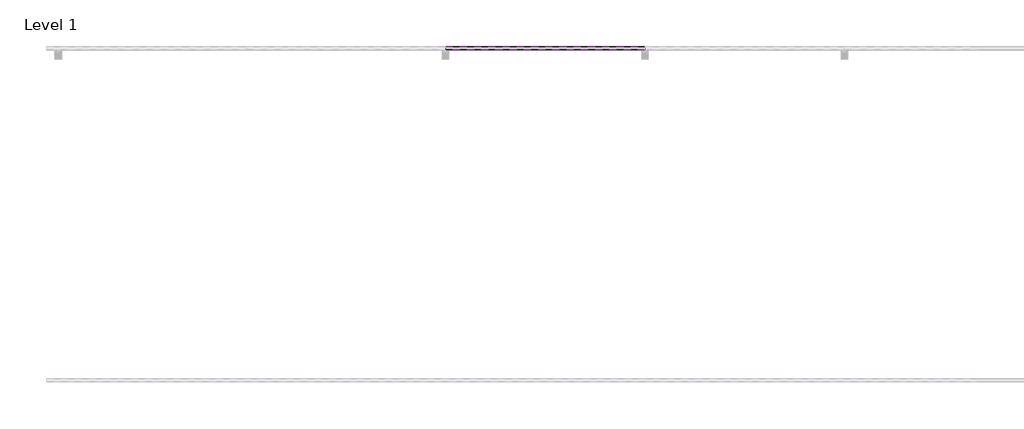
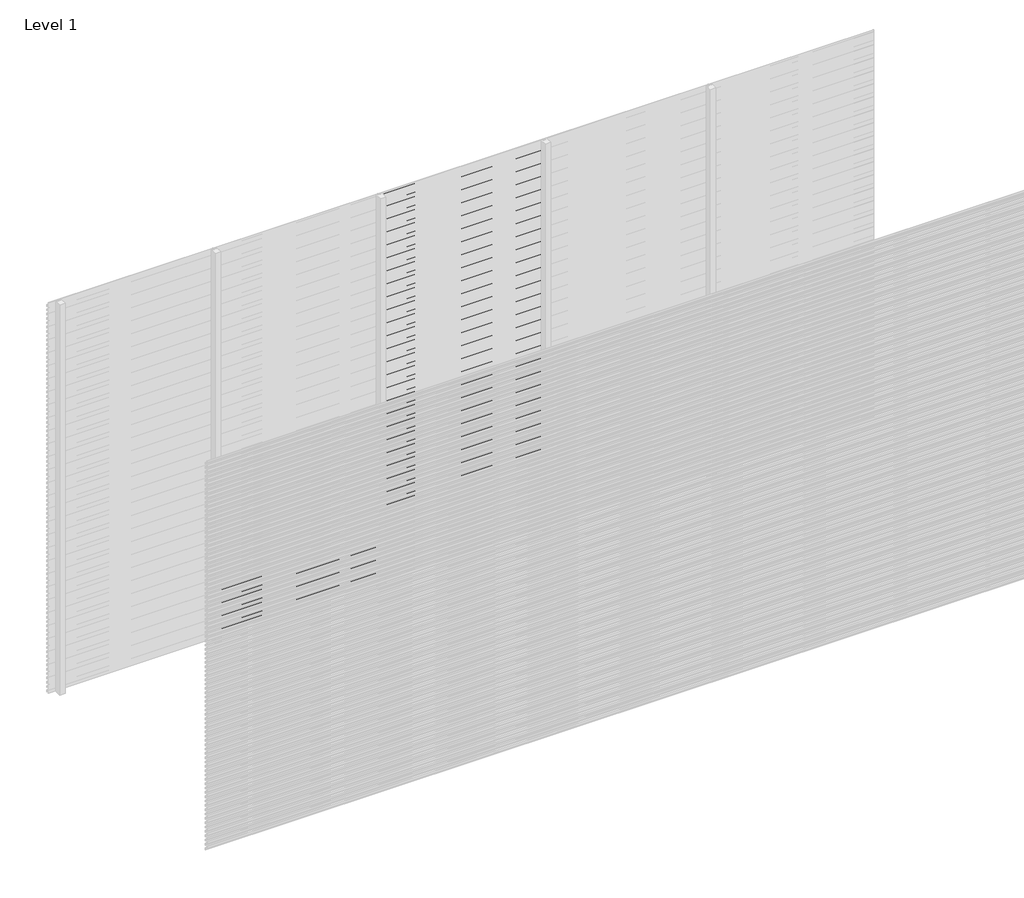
# One storey, part 52 of 507: 84 proxies.
"""IFC4 building model written with IfcOpenShell, lengths in millimetres."""

from ifc_helpers import new_model, si_unit, frame, origin, place, context, project, spatial, polyline, outline, extrude, element, save

model = new_model("IFC4")

# Units and contexts
model_context = context("Model", 3, world=origin())
ifc_project = project(units=[si_unit("LENGTHUNIT", "METRE", prefix="MILLI")], contexts=[model_context])

# Site, building, storey
site = spatial("IfcSite", under=ifc_project)
building = spatial("IfcBuilding", under=site)
storey = spatial("IfcBuildingStorey", under=building, Name="Level 1", Elevation=0.0)

# Proxies
placement = place(None, origin())
element("IfcBuildingElementProxy", 1, Name="Wall Sweeps", at=placement, inside=storey, context=model_context, shape_type="SweptSolid", body=[
    extrude(outline(polyline([(36503.4540136, 342.3), (36503.4540136, 328.8), (36502.2040136, 329.5216933), (36502.2040136, 341.5782281), (36483.0540136, 352.6345698), (36483.0540136, 366.3), (36484.3040136, 366.3), (36484.3040136, 353.3562577), (36503.4540136, 342.3)])), frame((46166.6208099, 0.0, 0.0), z_axis=(1.0, 0.0, 0.0), x_axis=(0.0, 1.0, 0.0)), (0.0, 0.0, 1.0), 1199.9999999),
])
element("IfcBuildingElementProxy", 2, Name="Wall Sweeps", at=placement, inside=storey, context=model_context, shape_type="SweptSolid", body=[
    extrude(outline(polyline([(36503.4540136, 309.0), (36503.4540136, 295.5), (36502.2040136, 296.2216933), (36502.2040136, 308.2782281), (36483.0540136, 319.3345698), (36483.0540136, 333.0), (36484.3040136, 333.0), (36484.3040136, 320.0562577), (36503.4540136, 309.0)])), frame((46166.6208099, 0.0, 0.0), z_axis=(1.0, 0.0, 0.0), x_axis=(0.0, 1.0, 0.0)), (0.0, 0.0, 1.0), 1199.9999999),
])
element("IfcBuildingElementProxy", 3, Name="Wall Sweeps", at=placement, inside=storey, context=model_context, shape_type="SweptSolid", body=[
    extrude(outline(polyline([(36503.4540136, 275.7), (36503.4540136, 262.2), (36502.2040136, 262.9216933), (36502.2040136, 274.9782281), (36483.0540136, 286.0345698), (36483.0540136, 299.7), (36484.3040136, 299.7), (36484.3040136, 286.7562577), (36503.4540136, 275.7)])), frame((46166.6208099, 0.0, 0.0), z_axis=(1.0, 0.0, 0.0), x_axis=(0.0, 1.0, 0.0)), (0.0, 0.0, 1.0), 1199.9999999),
])
element("IfcBuildingElementProxy", 4, Name="Wall Sweeps", at=placement, inside=storey, context=model_context, shape_type="SweptSolid", body=[
    extrude(outline(polyline([(36503.4540136, 242.4), (36503.4540136, 228.9), (36502.2040136, 229.6216933), (36502.2040136, 241.6782281), (36483.0540136, 252.7345698), (36483.0540136, 266.4), (36484.3040136, 266.4), (36484.3040136, 253.4562577), (36503.4540136, 242.4)])), frame((46166.6208099, 0.0, 0.0), z_axis=(1.0, 0.0, 0.0), x_axis=(0.0, 1.0, 0.0)), (0.0, 0.0, 1.0), 1199.9999999),
])
element("IfcBuildingElementProxy", 5, Name="Wall Sweeps", at=placement, inside=storey, context=model_context, shape_type="SweptSolid", body=[
    extrude(outline(polyline([(36503.4540136, 209.1), (36503.4540136, 195.6), (36502.2040136, 196.3216933), (36502.2040136, 208.3782281), (36483.0540136, 219.4345698), (36483.0540136, 233.1), (36484.3040136, 233.1), (36484.3040136, 220.1562577), (36503.4540136, 209.1)])), frame((46166.6208099, 0.0, 0.0), z_axis=(1.0, 0.0, 0.0), x_axis=(0.0, 1.0, 0.0)), (0.0, 0.0, 1.0), 1199.9999999),
])
element("IfcBuildingElementProxy", 6, Name="Wall Sweeps", at=placement, inside=storey, context=model_context, shape_type="SweptSolid", body=[
    extrude(outline(polyline([(36503.4540136, 175.8), (36503.4540136, 162.3), (36502.2040136, 163.0216933), (36502.2040136, 175.0782281), (36483.0540136, 186.1345698), (36483.0540136, 199.8), (36484.3040136, 199.8), (36484.3040136, 186.8562577), (36503.4540136, 175.8)])), frame((46166.6208099, 0.0, 0.0), z_axis=(1.0, 0.0, 0.0), x_axis=(0.0, 1.0, 0.0)), (0.0, 0.0, 1.0), 1199.9999999),
])
element("IfcBuildingElementProxy", 7, Name="Wall Sweeps", at=placement, inside=storey, context=model_context, shape_type="SweptSolid", body=[
    extrude(outline(polyline([(36503.4540136, 142.5), (36503.4540136, 129.0), (36502.2040136, 129.7216933), (36502.2040136, 141.7782281), (36483.0540136, 152.8345698), (36483.0540136, 166.5), (36484.3040136, 166.5), (36484.3040136, 153.5562577), (36503.4540136, 142.5)])), frame((46166.6208099, 0.0, 0.0), z_axis=(1.0, 0.0, 0.0), x_axis=(0.0, 1.0, 0.0)), (0.0, 0.0, 1.0), 1199.9999999),
])
element("IfcBuildingElementProxy", 8, Name="Wall Sweeps", at=placement, inside=storey, context=model_context, shape_type="SweptSolid", body=[
    extrude(outline(polyline([(36503.4540136, 109.2), (36503.4540136, 95.7), (36502.2040136, 96.4216933), (36502.2040136, 108.4782281), (36483.0540136, 119.5345698), (36483.0540136, 133.2), (36484.3040136, 133.2), (36484.3040136, 120.2562577), (36503.4540136, 109.2)])), frame((46166.6208099, 0.0, 0.0), z_axis=(1.0, 0.0, 0.0), x_axis=(0.0, 1.0, 0.0)), (0.0, 0.0, 1.0), 1199.9999999),
])
element("IfcBuildingElementProxy", 9, Name="Wall Sweeps", at=placement, inside=storey, context=model_context, shape_type="SweptSolid", body=[
    extrude(outline(polyline([(36503.4540136, 75.9), (36503.4540136, 62.4), (36502.2040136, 63.1216933), (36502.2040136, 75.1782281), (36483.0540136, 86.2345698), (36483.0540136, 99.9), (36484.3040136, 99.9), (36484.3040136, 86.9562577), (36503.4540136, 75.9)])), frame((46166.6208099, 0.0, 0.0), z_axis=(1.0, 0.0, 0.0), x_axis=(0.0, 1.0, 0.0)), (0.0, 0.0, 1.0), 1199.9999999),
])
element("IfcBuildingElementProxy", 10, Name="Wall Sweeps", at=placement, inside=storey, context=model_context, shape_type="SweptSolid", body=[
    extrude(outline(polyline([(36503.4540136, 42.6), (36503.4540136, 29.1), (36502.2040136, 29.8216933), (36502.2040136, 41.8782281), (36483.0540136, 52.9345698), (36483.0540136, 66.6), (36484.3040136, 66.6), (36484.3040136, 53.6562577), (36503.4540136, 42.6)])), frame((46166.6208099, 0.0, 0.0), z_axis=(1.0, 0.0, 0.0), x_axis=(0.0, 1.0, 0.0)), (0.0, 0.0, 1.0), 1199.9999999),
])
element("IfcBuildingElementProxy", 11, Name="Wall Sweeps", at=placement, inside=storey, context=model_context, shape_type="SweptSolid", body=[
    extrude(outline(polyline([(36503.4540136, 9.3), (36503.4540136, -4.2), (36502.2040136, -3.4783067), (36502.2040136, 8.5782281), (36483.0540136, 19.6345698), (36483.0540136, 33.3), (36484.3040136, 33.3), (36484.3040136, 20.3562577), (36503.4540136, 9.3)])), frame((46166.6208099, 0.0, 0.0), z_axis=(1.0, 0.0, 0.0), x_axis=(0.0, 1.0, 0.0)), (0.0, 0.0, 1.0), 1199.9999999),
])
element("IfcBuildingElementProxy", 12, Name="Wall Sweeps", at=placement, inside=storey, context=model_context, shape_type="SweptSolid", body=[
    extrude(outline(polyline([(36503.4540136, 2973.0), (36503.4540136, 2959.5), (36502.2040136, 2960.2216933), (36502.2040136, 2972.2782281), (36483.0540136, 2983.3345698), (36483.0540136, 2997.0), (36484.3040136, 2997.0), (36484.3040136, 2984.0562577), (36503.4540136, 2973.0)])), frame((47366.6208097, 0.0, 0.0), z_axis=(1.0, 0.0, 0.0), x_axis=(0.0, 1.0, 0.0)), (0.0, 0.0, 1.0), 1199.9999999),
])
element("IfcBuildingElementProxy", 13, Name="Wall Sweeps", at=placement, inside=storey, context=model_context, shape_type="SweptSolid", body=[
    extrude(outline(polyline([(36503.4540136, 2939.7), (36503.4540136, 2926.2), (36502.2040136, 2926.9216933), (36502.2040136, 2938.9782281), (36483.0540136, 2950.0345698), (36483.0540136, 2963.7), (36484.3040136, 2963.7), (36484.3040136, 2950.7562577), (36503.4540136, 2939.7)])), frame((47366.6208097, 0.0, 0.0), z_axis=(1.0, 0.0, 0.0), x_axis=(0.0, 1.0, 0.0)), (0.0, 0.0, 1.0), 1199.9999999),
])
element("IfcBuildingElementProxy", 14, Name="Wall Sweeps", at=placement, inside=storey, context=model_context, shape_type="SweptSolid", body=[
    extrude(outline(polyline([(36503.4540136, 2906.4), (36503.4540136, 2892.9), (36502.2040136, 2893.6216933), (36502.2040136, 2905.6782281), (36483.0540136, 2916.7345698), (36483.0540136, 2930.4), (36484.3040136, 2930.4), (36484.3040136, 2917.4562577), (36503.4540136, 2906.4)])), frame((47366.6208097, 0.0, 0.0), z_axis=(1.0, 0.0, 0.0), x_axis=(0.0, 1.0, 0.0)), (0.0, 0.0, 1.0), 1199.9999999),
])
element("IfcBuildingElementProxy", 15, Name="Wall Sweeps", at=placement, inside=storey, context=model_context, shape_type="SweptSolid", body=[
    extrude(outline(polyline([(36503.4540136, 2873.1), (36503.4540136, 2859.6), (36502.2040136, 2860.3216933), (36502.2040136, 2872.3782281), (36483.0540136, 2883.4345698), (36483.0540136, 2897.1), (36484.3040136, 2897.1), (36484.3040136, 2884.1562577), (36503.4540136, 2873.1)])), frame((47366.6208097, 0.0, 0.0), z_axis=(1.0, 0.0, 0.0), x_axis=(0.0, 1.0, 0.0)), (0.0, 0.0, 1.0), 1199.9999999),
])
element("IfcBuildingElementProxy", 16, Name="Wall Sweeps", at=placement, inside=storey, context=model_context, shape_type="SweptSolid", body=[
    extrude(outline(polyline([(36503.4540136, 2839.8), (36503.4540136, 2826.3), (36502.2040136, 2827.0216933), (36502.2040136, 2839.0782281), (36483.0540136, 2850.1345698), (36483.0540136, 2863.8), (36484.3040136, 2863.8), (36484.3040136, 2850.8562577), (36503.4540136, 2839.8)])), frame((47366.6208097, 0.0, 0.0), z_axis=(1.0, 0.0, 0.0), x_axis=(0.0, 1.0, 0.0)), (0.0, 0.0, 1.0), 1199.9999999),
])
element("IfcBuildingElementProxy", 17, Name="Wall Sweeps", at=placement, inside=storey, context=model_context, shape_type="SweptSolid", body=[
    extrude(outline(polyline([(36503.4540136, 2806.5), (36503.4540136, 2793.0), (36502.2040136, 2793.7216933), (36502.2040136, 2805.7782281), (36483.0540136, 2816.8345698), (36483.0540136, 2830.5), (36484.3040136, 2830.5), (36484.3040136, 2817.5562577), (36503.4540136, 2806.5)])), frame((47366.6208097, 0.0, 0.0), z_axis=(1.0, 0.0, 0.0), x_axis=(0.0, 1.0, 0.0)), (0.0, 0.0, 1.0), 1199.9999999),
])
element("IfcBuildingElementProxy", 18, Name="Wall Sweeps", at=placement, inside=storey, context=model_context, shape_type="SweptSolid", body=[
    extrude(outline(polyline([(36503.4540136, 2773.2), (36503.4540136, 2759.7), (36502.2040136, 2760.4216933), (36502.2040136, 2772.4782281), (36483.0540136, 2783.5345698), (36483.0540136, 2797.2), (36484.3040136, 2797.2), (36484.3040136, 2784.2562577), (36503.4540136, 2773.2)])), frame((47366.6208097, 0.0, 0.0), z_axis=(1.0, 0.0, 0.0), x_axis=(0.0, 1.0, 0.0)), (0.0, 0.0, 1.0), 1199.9999999),
])
element("IfcBuildingElementProxy", 19, Name="Wall Sweeps", at=placement, inside=storey, context=model_context, shape_type="SweptSolid", body=[
    extrude(outline(polyline([(36503.4540136, 2739.9), (36503.4540136, 2726.4), (36502.2040136, 2727.1216933), (36502.2040136, 2739.1782281), (36483.0540136, 2750.2345698), (36483.0540136, 2763.9), (36484.3040136, 2763.9), (36484.3040136, 2750.9562577), (36503.4540136, 2739.9)])), frame((47366.6208097, 0.0, 0.0), z_axis=(1.0, 0.0, 0.0), x_axis=(0.0, 1.0, 0.0)), (0.0, 0.0, 1.0), 1199.9999999),
])
element("IfcBuildingElementProxy", 20, Name="Wall Sweeps", at=placement, inside=storey, context=model_context, shape_type="SweptSolid", body=[
    extrude(outline(polyline([(36503.4540136, 2706.6), (36503.4540136, 2693.1), (36502.2040136, 2693.8216933), (36502.2040136, 2705.8782281), (36483.0540136, 2716.9345698), (36483.0540136, 2730.6), (36484.3040136, 2730.6), (36484.3040136, 2717.6562577), (36503.4540136, 2706.6)])), frame((47366.6208097, 0.0, 0.0), z_axis=(1.0, 0.0, 0.0), x_axis=(0.0, 1.0, 0.0)), (0.0, 0.0, 1.0), 1199.9999999),
])
element("IfcBuildingElementProxy", 21, Name="Wall Sweeps", at=placement, inside=storey, context=model_context, shape_type="SweptSolid", body=[
    extrude(outline(polyline([(36503.4540136, 2673.3), (36503.4540136, 2659.8), (36502.2040136, 2660.5216933), (36502.2040136, 2672.5782281), (36483.0540136, 2683.6345698), (36483.0540136, 2697.3), (36484.3040136, 2697.3), (36484.3040136, 2684.3562577), (36503.4540136, 2673.3)])), frame((47366.6208097, 0.0, 0.0), z_axis=(1.0, 0.0, 0.0), x_axis=(0.0, 1.0, 0.0)), (0.0, 0.0, 1.0), 1199.9999999),
])
element("IfcBuildingElementProxy", 22, Name="Wall Sweeps", at=placement, inside=storey, context=model_context, shape_type="SweptSolid", body=[
    extrude(outline(polyline([(36503.4540136, 2640.0), (36503.4540136, 2626.5), (36502.2040136, 2627.2216933), (36502.2040136, 2639.2782281), (36483.0540136, 2650.3345698), (36483.0540136, 2664.0), (36484.3040136, 2664.0), (36484.3040136, 2651.0562577), (36503.4540136, 2640.0)])), frame((47366.6208097, 0.0, 0.0), z_axis=(1.0, 0.0, 0.0), x_axis=(0.0, 1.0, 0.0)), (0.0, 0.0, 1.0), 1199.9999999),
])
element("IfcBuildingElementProxy", 23, Name="Wall Sweeps", at=placement, inside=storey, context=model_context, shape_type="SweptSolid", body=[
    extrude(outline(polyline([(36503.4540136, 2606.7), (36503.4540136, 2593.2), (36502.2040136, 2593.9216933), (36502.2040136, 2605.9782281), (36483.0540136, 2617.0345698), (36483.0540136, 2630.7), (36484.3040136, 2630.7), (36484.3040136, 2617.7562577), (36503.4540136, 2606.7)])), frame((47366.6208097, 0.0, 0.0), z_axis=(1.0, 0.0, 0.0), x_axis=(0.0, 1.0, 0.0)), (0.0, 0.0, 1.0), 1199.9999999),
])
element("IfcBuildingElementProxy", 24, Name="Wall Sweeps", at=placement, inside=storey, context=model_context, shape_type="SweptSolid", body=[
    extrude(outline(polyline([(36503.4540136, 2573.4), (36503.4540136, 2559.9), (36502.2040136, 2560.6216933), (36502.2040136, 2572.6782281), (36483.0540136, 2583.7345698), (36483.0540136, 2597.4), (36484.3040136, 2597.4), (36484.3040136, 2584.4562577), (36503.4540136, 2573.4)])), frame((47366.6208097, 0.0, 0.0), z_axis=(1.0, 0.0, 0.0), x_axis=(0.0, 1.0, 0.0)), (0.0, 0.0, 1.0), 1199.9999999),
])
element("IfcBuildingElementProxy", 25, Name="Wall Sweeps", at=placement, inside=storey, context=model_context, shape_type="SweptSolid", body=[
    extrude(outline(polyline([(36503.4540136, 2540.1), (36503.4540136, 2526.6), (36502.2040136, 2527.3216933), (36502.2040136, 2539.3782281), (36483.0540136, 2550.4345698), (36483.0540136, 2564.1), (36484.3040136, 2564.1), (36484.3040136, 2551.1562577), (36503.4540136, 2540.1)])), frame((47366.6208097, 0.0, 0.0), z_axis=(1.0, 0.0, 0.0), x_axis=(0.0, 1.0, 0.0)), (0.0, 0.0, 1.0), 1199.9999999),
])
element("IfcBuildingElementProxy", 26, Name="Wall Sweeps", at=placement, inside=storey, context=model_context, shape_type="SweptSolid", body=[
    extrude(outline(polyline([(36503.4540136, 2506.8), (36503.4540136, 2493.3), (36502.2040136, 2494.0216933), (36502.2040136, 2506.0782281), (36483.0540136, 2517.1345698), (36483.0540136, 2530.8), (36484.3040136, 2530.8), (36484.3040136, 2517.8562577), (36503.4540136, 2506.8)])), frame((47366.6208097, 0.0, 0.0), z_axis=(1.0, 0.0, 0.0), x_axis=(0.0, 1.0, 0.0)), (0.0, 0.0, 1.0), 1199.9999999),
])
element("IfcBuildingElementProxy", 27, Name="Wall Sweeps", at=placement, inside=storey, context=model_context, shape_type="SweptSolid", body=[
    extrude(outline(polyline([(36503.4540136, 2473.5), (36503.4540136, 2460.0), (36502.2040136, 2460.7216933), (36502.2040136, 2472.7782281), (36483.0540136, 2483.8345698), (36483.0540136, 2497.5), (36484.3040136, 2497.5), (36484.3040136, 2484.5562577), (36503.4540136, 2473.5)])), frame((47366.6208097, 0.0, 0.0), z_axis=(1.0, 0.0, 0.0), x_axis=(0.0, 1.0, 0.0)), (0.0, 0.0, 1.0), 1199.9999999),
])
element("IfcBuildingElementProxy", 28, Name="Wall Sweeps", at=placement, inside=storey, context=model_context, shape_type="SweptSolid", body=[
    extrude(outline(polyline([(36503.4540136, 2440.2), (36503.4540136, 2426.7), (36502.2040136, 2427.4216933), (36502.2040136, 2439.4782281), (36483.0540136, 2450.5345698), (36483.0540136, 2464.2), (36484.3040136, 2464.2), (36484.3040136, 2451.2562577), (36503.4540136, 2440.2)])), frame((47366.6208097, 0.0, 0.0), z_axis=(1.0, 0.0, 0.0), x_axis=(0.0, 1.0, 0.0)), (0.0, 0.0, 1.0), 1199.9999999),
])
element("IfcBuildingElementProxy", 29, Name="Wall Sweeps", at=placement, inside=storey, context=model_context, shape_type="SweptSolid", body=[
    extrude(outline(polyline([(36503.4540136, 2406.9), (36503.4540136, 2393.4), (36502.2040136, 2394.1216933), (36502.2040136, 2406.1782281), (36483.0540136, 2417.2345698), (36483.0540136, 2430.9), (36484.3040136, 2430.9), (36484.3040136, 2417.9562577), (36503.4540136, 2406.9)])), frame((47366.6208097, 0.0, 0.0), z_axis=(1.0, 0.0, 0.0), x_axis=(0.0, 1.0, 0.0)), (0.0, 0.0, 1.0), 1199.9999999),
])
element("IfcBuildingElementProxy", 30, Name="Wall Sweeps", at=placement, inside=storey, context=model_context, shape_type="SweptSolid", body=[
    extrude(outline(polyline([(36503.4540136, 2373.6), (36503.4540136, 2360.1), (36502.2040136, 2360.8216933), (36502.2040136, 2372.8782281), (36483.0540136, 2383.9345698), (36483.0540136, 2397.6), (36484.3040136, 2397.6), (36484.3040136, 2384.6562577), (36503.4540136, 2373.6)])), frame((47366.6208097, 0.0, 0.0), z_axis=(1.0, 0.0, 0.0), x_axis=(0.0, 1.0, 0.0)), (0.0, 0.0, 1.0), 1199.9999999),
])
element("IfcBuildingElementProxy", 31, Name="Wall Sweeps", at=placement, inside=storey, context=model_context, shape_type="SweptSolid", body=[
    extrude(outline(polyline([(36503.4540136, 2340.3), (36503.4540136, 2326.8), (36502.2040136, 2327.5216933), (36502.2040136, 2339.5782281), (36483.0540136, 2350.6345698), (36483.0540136, 2364.3), (36484.3040136, 2364.3), (36484.3040136, 2351.3562577), (36503.4540136, 2340.3)])), frame((47366.6208097, 0.0, 0.0), z_axis=(1.0, 0.0, 0.0), x_axis=(0.0, 1.0, 0.0)), (0.0, 0.0, 1.0), 1199.9999999),
])
element("IfcBuildingElementProxy", 32, Name="Wall Sweeps", at=placement, inside=storey, context=model_context, shape_type="SweptSolid", body=[
    extrude(outline(polyline([(36503.4540136, 2307.0), (36503.4540136, 2293.5), (36502.2040136, 2294.2216933), (36502.2040136, 2306.2782281), (36483.0540136, 2317.3345698), (36483.0540136, 2331.0), (36484.3040136, 2331.0), (36484.3040136, 2318.0562577), (36503.4540136, 2307.0)])), frame((47366.6208097, 0.0, 0.0), z_axis=(1.0, 0.0, 0.0), x_axis=(0.0, 1.0, 0.0)), (0.0, 0.0, 1.0), 1199.9999999),
])
element("IfcBuildingElementProxy", 33, Name="Wall Sweeps", at=placement, inside=storey, context=model_context, shape_type="SweptSolid", body=[
    extrude(outline(polyline([(36503.4540136, 2273.7), (36503.4540136, 2260.2), (36502.2040136, 2260.9216933), (36502.2040136, 2272.9782281), (36483.0540136, 2284.0345698), (36483.0540136, 2297.7), (36484.3040136, 2297.7), (36484.3040136, 2284.7562577), (36503.4540136, 2273.7)])), frame((47366.6208097, 0.0, 0.0), z_axis=(1.0, 0.0, 0.0), x_axis=(0.0, 1.0, 0.0)), (0.0, 0.0, 1.0), 1199.9999999),
])
element("IfcBuildingElementProxy", 34, Name="Wall Sweeps", at=placement, inside=storey, context=model_context, shape_type="SweptSolid", body=[
    extrude(outline(polyline([(36503.4540136, 2240.4), (36503.4540136, 2226.9), (36502.2040136, 2227.6216933), (36502.2040136, 2239.6782281), (36483.0540136, 2250.7345698), (36483.0540136, 2264.4), (36484.3040136, 2264.4), (36484.3040136, 2251.4562577), (36503.4540136, 2240.4)])), frame((47366.6208097, 0.0, 0.0), z_axis=(1.0, 0.0, 0.0), x_axis=(0.0, 1.0, 0.0)), (0.0, 0.0, 1.0), 1199.9999999),
])
element("IfcBuildingElementProxy", 35, Name="Wall Sweeps", at=placement, inside=storey, context=model_context, shape_type="SweptSolid", body=[
    extrude(outline(polyline([(36503.4540136, 2207.1), (36503.4540136, 2193.6), (36502.2040136, 2194.3216933), (36502.2040136, 2206.3782281), (36483.0540136, 2217.4345698), (36483.0540136, 2231.1), (36484.3040136, 2231.1), (36484.3040136, 2218.1562577), (36503.4540136, 2207.1)])), frame((47366.6208097, 0.0, 0.0), z_axis=(1.0, 0.0, 0.0), x_axis=(0.0, 1.0, 0.0)), (0.0, 0.0, 1.0), 1199.9999999),
])
element("IfcBuildingElementProxy", 36, Name="Wall Sweeps", at=placement, inside=storey, context=model_context, shape_type="SweptSolid", body=[
    extrude(outline(polyline([(36503.4540136, 2173.8), (36503.4540136, 2160.3), (36502.2040136, 2161.0216933), (36502.2040136, 2173.0782281), (36483.0540136, 2184.1345698), (36483.0540136, 2197.8), (36484.3040136, 2197.8), (36484.3040136, 2184.8562577), (36503.4540136, 2173.8)])), frame((47366.6208097, 0.0, 0.0), z_axis=(1.0, 0.0, 0.0), x_axis=(0.0, 1.0, 0.0)), (0.0, 0.0, 1.0), 1199.9999999),
])
element("IfcBuildingElementProxy", 37, Name="Wall Sweeps", at=placement, inside=storey, context=model_context, shape_type="SweptSolid", body=[
    extrude(outline(polyline([(36503.4540136, 2140.5), (36503.4540136, 2127.0), (36502.2040136, 2127.7216933), (36502.2040136, 2139.7782281), (36483.0540136, 2150.8345698), (36483.0540136, 2164.5), (36484.3040136, 2164.5), (36484.3040136, 2151.5562577), (36503.4540136, 2140.5)])), frame((47366.6208097, 0.0, 0.0), z_axis=(1.0, 0.0, 0.0), x_axis=(0.0, 1.0, 0.0)), (0.0, 0.0, 1.0), 1199.9999999),
])
element("IfcBuildingElementProxy", 38, Name="Wall Sweeps", at=placement, inside=storey, context=model_context, shape_type="SweptSolid", body=[
    extrude(outline(polyline([(36503.4540136, 2107.2), (36503.4540136, 2093.7), (36502.2040136, 2094.4216933), (36502.2040136, 2106.4782281), (36483.0540136, 2117.5345698), (36483.0540136, 2131.2), (36484.3040136, 2131.2), (36484.3040136, 2118.2562577), (36503.4540136, 2107.2)])), frame((47366.6208097, 0.0, 0.0), z_axis=(1.0, 0.0, 0.0), x_axis=(0.0, 1.0, 0.0)), (0.0, 0.0, 1.0), 1199.9999999),
])
element("IfcBuildingElementProxy", 39, Name="Wall Sweeps", at=placement, inside=storey, context=model_context, shape_type="SweptSolid", body=[
    extrude(outline(polyline([(36503.4540136, 2073.9), (36503.4540136, 2060.4), (36502.2040136, 2061.1216933), (36502.2040136, 2073.1782281), (36483.0540136, 2084.2345698), (36483.0540136, 2097.9), (36484.3040136, 2097.9), (36484.3040136, 2084.9562577), (36503.4540136, 2073.9)])), frame((47366.6208097, 0.0, 0.0), z_axis=(1.0, 0.0, 0.0), x_axis=(0.0, 1.0, 0.0)), (0.0, 0.0, 1.0), 1199.9999999),
])
element("IfcBuildingElementProxy", 40, Name="Wall Sweeps", at=placement, inside=storey, context=model_context, shape_type="SweptSolid", body=[
    extrude(outline(polyline([(36503.4540136, 2040.6), (36503.4540136, 2027.1), (36502.2040136, 2027.8216933), (36502.2040136, 2039.8782281), (36483.0540136, 2050.9345698), (36483.0540136, 2064.6), (36484.3040136, 2064.6), (36484.3040136, 2051.6562577), (36503.4540136, 2040.6)])), frame((47366.6208097, 0.0, 0.0), z_axis=(1.0, 0.0, 0.0), x_axis=(0.0, 1.0, 0.0)), (0.0, 0.0, 1.0), 1199.9999999),
])
element("IfcBuildingElementProxy", 41, Name="Wall Sweeps", at=placement, inside=storey, context=model_context, shape_type="SweptSolid", body=[
    extrude(outline(polyline([(36503.4540136, 2007.3), (36503.4540136, 1993.8), (36502.2040136, 1994.5216933), (36502.2040136, 2006.5782281), (36483.0540136, 2017.6345698), (36483.0540136, 2031.3), (36484.3040136, 2031.3), (36484.3040136, 2018.3562577), (36503.4540136, 2007.3)])), frame((47366.6208097, 0.0, 0.0), z_axis=(1.0, 0.0, 0.0), x_axis=(0.0, 1.0, 0.0)), (0.0, 0.0, 1.0), 1199.9999999),
])
element("IfcBuildingElementProxy", 42, Name="Wall Sweeps", at=placement, inside=storey, context=model_context, shape_type="SweptSolid", body=[
    extrude(outline(polyline([(36503.4540136, 1974.0), (36503.4540136, 1960.5), (36502.2040136, 1961.2216933), (36502.2040136, 1973.2782281), (36483.0540136, 1984.3345698), (36483.0540136, 1998.0), (36484.3040136, 1998.0), (36484.3040136, 1985.0562577), (36503.4540136, 1974.0)])), frame((47366.6208097, 0.0, 0.0), z_axis=(1.0, 0.0, 0.0), x_axis=(0.0, 1.0, 0.0)), (0.0, 0.0, 1.0), 1199.9999999),
])
element("IfcBuildingElementProxy", 43, Name="Wall Sweeps", at=placement, inside=storey, context=model_context, shape_type="SweptSolid", body=[
    extrude(outline(polyline([(36503.4540136, 1940.7), (36503.4540136, 1927.2), (36502.2040136, 1927.9216933), (36502.2040136, 1939.9782281), (36483.0540136, 1951.0345698), (36483.0540136, 1964.7), (36484.3040136, 1964.7), (36484.3040136, 1951.7562577), (36503.4540136, 1940.7)])), frame((47366.6208097, 0.0, 0.0), z_axis=(1.0, 0.0, 0.0), x_axis=(0.0, 1.0, 0.0)), (0.0, 0.0, 1.0), 1199.9999999),
])
element("IfcBuildingElementProxy", 44, Name="Wall Sweeps", at=placement, inside=storey, context=model_context, shape_type="SweptSolid", body=[
    extrude(outline(polyline([(36503.4540136, 1907.4), (36503.4540136, 1893.9), (36502.2040136, 1894.6216933), (36502.2040136, 1906.6782281), (36483.0540136, 1917.7345698), (36483.0540136, 1931.4), (36484.3040136, 1931.4), (36484.3040136, 1918.4562577), (36503.4540136, 1907.4)])), frame((47366.6208097, 0.0, 0.0), z_axis=(1.0, 0.0, 0.0), x_axis=(0.0, 1.0, 0.0)), (0.0, 0.0, 1.0), 1199.9999999),
])
element("IfcBuildingElementProxy", 45, Name="Wall Sweeps", at=placement, inside=storey, context=model_context, shape_type="SweptSolid", body=[
    extrude(outline(polyline([(36503.4540136, 1874.1), (36503.4540136, 1860.6), (36502.2040136, 1861.3216933), (36502.2040136, 1873.3782281), (36483.0540136, 1884.4345698), (36483.0540136, 1898.1), (36484.3040136, 1898.1), (36484.3040136, 1885.1562577), (36503.4540136, 1874.1)])), frame((47366.6208097, 0.0, 0.0), z_axis=(1.0, 0.0, 0.0), x_axis=(0.0, 1.0, 0.0)), (0.0, 0.0, 1.0), 1199.9999999),
])
element("IfcBuildingElementProxy", 46, Name="Wall Sweeps", at=placement, inside=storey, context=model_context, shape_type="SweptSolid", body=[
    extrude(outline(polyline([(36503.4540136, 1840.8), (36503.4540136, 1827.3), (36502.2040136, 1828.0216933), (36502.2040136, 1840.0782281), (36483.0540136, 1851.1345698), (36483.0540136, 1864.8), (36484.3040136, 1864.8), (36484.3040136, 1851.8562577), (36503.4540136, 1840.8)])), frame((47366.6208097, 0.0, 0.0), z_axis=(1.0, 0.0, 0.0), x_axis=(0.0, 1.0, 0.0)), (0.0, 0.0, 1.0), 1199.9999999),
])
element("IfcBuildingElementProxy", 47, Name="Wall Sweeps", at=placement, inside=storey, context=model_context, shape_type="SweptSolid", body=[
    extrude(outline(polyline([(36503.4540136, 1807.5), (36503.4540136, 1794.0), (36502.2040136, 1794.7216933), (36502.2040136, 1806.7782281), (36483.0540136, 1817.8345698), (36483.0540136, 1831.5), (36484.3040136, 1831.5), (36484.3040136, 1818.5562577), (36503.4540136, 1807.5)])), frame((47366.6208097, 0.0, 0.0), z_axis=(1.0, 0.0, 0.0), x_axis=(0.0, 1.0, 0.0)), (0.0, 0.0, 1.0), 1199.9999999),
])
element("IfcBuildingElementProxy", 48, Name="Wall Sweeps", at=placement, inside=storey, context=model_context, shape_type="SweptSolid", body=[
    extrude(outline(polyline([(36503.4540136, 1774.2), (36503.4540136, 1760.7), (36502.2040136, 1761.4216933), (36502.2040136, 1773.4782281), (36483.0540136, 1784.5345698), (36483.0540136, 1798.2), (36484.3040136, 1798.2), (36484.3040136, 1785.2562577), (36503.4540136, 1774.2)])), frame((47366.6208097, 0.0, 0.0), z_axis=(1.0, 0.0, 0.0), x_axis=(0.0, 1.0, 0.0)), (0.0, 0.0, 1.0), 1199.9999999),
])
element("IfcBuildingElementProxy", 49, Name="Wall Sweeps", at=placement, inside=storey, context=model_context, shape_type="SweptSolid", body=[
    extrude(outline(polyline([(36503.4540136, 1740.9), (36503.4540136, 1727.4), (36502.2040136, 1728.1216933), (36502.2040136, 1740.1782281), (36483.0540136, 1751.2345698), (36483.0540136, 1764.9), (36484.3040136, 1764.9), (36484.3040136, 1751.9562577), (36503.4540136, 1740.9)])), frame((47366.6208097, 0.0, 0.0), z_axis=(1.0, 0.0, 0.0), x_axis=(0.0, 1.0, 0.0)), (0.0, 0.0, 1.0), 1199.9999999),
])
element("IfcBuildingElementProxy", 50, Name="Wall Sweeps", at=placement, inside=storey, context=model_context, shape_type="SweptSolid", body=[
    extrude(outline(polyline([(36503.4540136, 1707.6), (36503.4540136, 1694.1), (36502.2040136, 1694.8216933), (36502.2040136, 1706.8782281), (36483.0540136, 1717.9345698), (36483.0540136, 1731.6), (36484.3040136, 1731.6), (36484.3040136, 1718.6562577), (36503.4540136, 1707.6)])), frame((47366.6208097, 0.0, 0.0), z_axis=(1.0, 0.0, 0.0), x_axis=(0.0, 1.0, 0.0)), (0.0, 0.0, 1.0), 1199.9999999),
])
element("IfcBuildingElementProxy", 51, Name="Wall Sweeps", at=placement, inside=storey, context=model_context, shape_type="SweptSolid", body=[
    extrude(outline(polyline([(36503.4540136, 1674.3), (36503.4540136, 1660.8), (36502.2040136, 1661.5216933), (36502.2040136, 1673.5782281), (36483.0540136, 1684.6345698), (36483.0540136, 1698.3), (36484.3040136, 1698.3), (36484.3040136, 1685.3562577), (36503.4540136, 1674.3)])), frame((47366.6208097, 0.0, 0.0), z_axis=(1.0, 0.0, 0.0), x_axis=(0.0, 1.0, 0.0)), (0.0, 0.0, 1.0), 1199.9999999),
])
element("IfcBuildingElementProxy", 52, Name="Wall Sweeps", at=placement, inside=storey, context=model_context, shape_type="SweptSolid", body=[
    extrude(outline(polyline([(36503.4540136, 1641.0), (36503.4540136, 1627.5), (36502.2040136, 1628.2216933), (36502.2040136, 1640.2782281), (36483.0540136, 1651.3345698), (36483.0540136, 1665.0), (36484.3040136, 1665.0), (36484.3040136, 1652.0562577), (36503.4540136, 1641.0)])), frame((47366.6208097, 0.0, 0.0), z_axis=(1.0, 0.0, 0.0), x_axis=(0.0, 1.0, 0.0)), (0.0, 0.0, 1.0), 1199.9999999),
])
element("IfcBuildingElementProxy", 53, Name="Wall Sweeps", at=placement, inside=storey, context=model_context, shape_type="SweptSolid", body=[
    extrude(outline(polyline([(36503.4540136, 1607.7), (36503.4540136, 1594.2), (36502.2040136, 1594.9216933), (36502.2040136, 1606.9782281), (36483.0540136, 1618.0345698), (36483.0540136, 1631.7), (36484.3040136, 1631.7), (36484.3040136, 1618.7562577), (36503.4540136, 1607.7)])), frame((47366.6208097, 0.0, 0.0), z_axis=(1.0, 0.0, 0.0), x_axis=(0.0, 1.0, 0.0)), (0.0, 0.0, 1.0), 1199.9999999),
])
element("IfcBuildingElementProxy", 54, Name="Wall Sweeps", at=placement, inside=storey, context=model_context, shape_type="SweptSolid", body=[
    extrude(outline(polyline([(36503.4540136, 1574.4), (36503.4540136, 1560.9), (36502.2040136, 1561.6216933), (36502.2040136, 1573.6782281), (36483.0540136, 1584.7345698), (36483.0540136, 1598.4), (36484.3040136, 1598.4), (36484.3040136, 1585.4562577), (36503.4540136, 1574.4)])), frame((47366.6208097, 0.0, 0.0), z_axis=(1.0, 0.0, 0.0), x_axis=(0.0, 1.0, 0.0)), (0.0, 0.0, 1.0), 1199.9999999),
])
element("IfcBuildingElementProxy", 55, Name="Wall Sweeps", at=placement, inside=storey, context=model_context, shape_type="SweptSolid", body=[
    extrude(outline(polyline([(36503.4540136, 1541.1), (36503.4540136, 1527.6), (36502.2040136, 1528.3216933), (36502.2040136, 1540.3782281), (36483.0540136, 1551.4345698), (36483.0540136, 1565.1), (36484.3040136, 1565.1), (36484.3040136, 1552.1562577), (36503.4540136, 1541.1)])), frame((47366.6208097, 0.0, 0.0), z_axis=(1.0, 0.0, 0.0), x_axis=(0.0, 1.0, 0.0)), (0.0, 0.0, 1.0), 1199.9999999),
])
element("IfcBuildingElementProxy", 56, Name="Wall Sweeps", at=placement, inside=storey, context=model_context, shape_type="SweptSolid", body=[
    extrude(outline(polyline([(36503.4540136, 1507.8), (36503.4540136, 1494.3), (36502.2040136, 1495.0216933), (36502.2040136, 1507.0782281), (36483.0540136, 1518.1345698), (36483.0540136, 1531.8), (36484.3040136, 1531.8), (36484.3040136, 1518.8562577), (36503.4540136, 1507.8)])), frame((47366.6208097, 0.0, 0.0), z_axis=(1.0, 0.0, 0.0), x_axis=(0.0, 1.0, 0.0)), (0.0, 0.0, 1.0), 1199.9999999),
])
element("IfcBuildingElementProxy", 57, Name="Wall Sweeps", at=placement, inside=storey, context=model_context, shape_type="SweptSolid", body=[
    extrude(outline(polyline([(36503.4540136, 1474.5), (36503.4540136, 1461.0), (36502.2040136, 1461.7216933), (36502.2040136, 1473.7782281), (36483.0540136, 1484.8345698), (36483.0540136, 1498.5), (36484.3040136, 1498.5), (36484.3040136, 1485.5562577), (36503.4540136, 1474.5)])), frame((47366.6208097, 0.0, 0.0), z_axis=(1.0, 0.0, 0.0), x_axis=(0.0, 1.0, 0.0)), (0.0, 0.0, 1.0), 1199.9999999),
])
element("IfcBuildingElementProxy", 58, Name="Wall Sweeps", at=placement, inside=storey, context=model_context, shape_type="SweptSolid", body=[
    extrude(outline(polyline([(36503.4540136, 1441.2), (36503.4540136, 1427.7), (36502.2040136, 1428.4216933), (36502.2040136, 1440.4782281), (36483.0540136, 1451.5345698), (36483.0540136, 1465.2), (36484.3040136, 1465.2), (36484.3040136, 1452.2562577), (36503.4540136, 1441.2)])), frame((47366.6208097, 0.0, 0.0), z_axis=(1.0, 0.0, 0.0), x_axis=(0.0, 1.0, 0.0)), (0.0, 0.0, 1.0), 1199.9999999),
])
element("IfcBuildingElementProxy", 59, Name="Wall Sweeps", at=placement, inside=storey, context=model_context, shape_type="SweptSolid", body=[
    extrude(outline(polyline([(36503.4540136, 1407.9), (36503.4540136, 1394.4), (36502.2040136, 1395.1216933), (36502.2040136, 1407.1782281), (36483.0540136, 1418.2345698), (36483.0540136, 1431.9), (36484.3040136, 1431.9), (36484.3040136, 1418.9562577), (36503.4540136, 1407.9)])), frame((47366.6208097, 0.0, 0.0), z_axis=(1.0, 0.0, 0.0), x_axis=(0.0, 1.0, 0.0)), (0.0, 0.0, 1.0), 1199.9999999),
])
element("IfcBuildingElementProxy", 60, Name="Wall Sweeps", at=placement, inside=storey, context=model_context, shape_type="SweptSolid", body=[
    extrude(outline(polyline([(36503.4540136, 1374.6), (36503.4540136, 1361.1), (36502.2040136, 1361.8216933), (36502.2040136, 1373.8782281), (36483.0540136, 1384.9345698), (36483.0540136, 1398.6), (36484.3040136, 1398.6), (36484.3040136, 1385.6562577), (36503.4540136, 1374.6)])), frame((47366.6208097, 0.0, 0.0), z_axis=(1.0, 0.0, 0.0), x_axis=(0.0, 1.0, 0.0)), (0.0, 0.0, 1.0), 1199.9999999),
])
element("IfcBuildingElementProxy", 61, Name="Wall Sweeps", at=placement, inside=storey, context=model_context, shape_type="SweptSolid", body=[
    extrude(outline(polyline([(36503.4540136, 1341.3), (36503.4540136, 1327.8), (36502.2040136, 1328.5216933), (36502.2040136, 1340.5782281), (36483.0540136, 1351.6345698), (36483.0540136, 1365.3), (36484.3040136, 1365.3), (36484.3040136, 1352.3562577), (36503.4540136, 1341.3)])), frame((47366.6208097, 0.0, 0.0), z_axis=(1.0, 0.0, 0.0), x_axis=(0.0, 1.0, 0.0)), (0.0, 0.0, 1.0), 1199.9999999),
])
element("IfcBuildingElementProxy", 62, Name="Wall Sweeps", at=placement, inside=storey, context=model_context, shape_type="SweptSolid", body=[
    extrude(outline(polyline([(36503.4540136, 1308.0), (36503.4540136, 1294.5), (36502.2040136, 1295.2216933), (36502.2040136, 1307.2782281), (36483.0540136, 1318.3345698), (36483.0540136, 1332.0), (36484.3040136, 1332.0), (36484.3040136, 1319.0562577), (36503.4540136, 1308.0)])), frame((47366.6208097, 0.0, 0.0), z_axis=(1.0, 0.0, 0.0), x_axis=(0.0, 1.0, 0.0)), (0.0, 0.0, 1.0), 1199.9999999),
])
element("IfcBuildingElementProxy", 63, Name="Wall Sweeps", at=placement, inside=storey, context=model_context, shape_type="SweptSolid", body=[
    extrude(outline(polyline([(36503.4540136, 1274.7), (36503.4540136, 1261.2), (36502.2040136, 1261.9216933), (36502.2040136, 1273.9782281), (36483.0540136, 1285.0345698), (36483.0540136, 1298.7), (36484.3040136, 1298.7), (36484.3040136, 1285.7562577), (36503.4540136, 1274.7)])), frame((47366.6208097, 0.0, 0.0), z_axis=(1.0, 0.0, 0.0), x_axis=(0.0, 1.0, 0.0)), (0.0, 0.0, 1.0), 1199.9999999),
])
element("IfcBuildingElementProxy", 64, Name="Wall Sweeps", at=placement, inside=storey, context=model_context, shape_type="SweptSolid", body=[
    extrude(outline(polyline([(36503.4540136, 1241.4), (36503.4540136, 1227.9), (36502.2040136, 1228.6216933), (36502.2040136, 1240.6782281), (36483.0540136, 1251.7345698), (36483.0540136, 1265.4), (36484.3040136, 1265.4), (36484.3040136, 1252.4562577), (36503.4540136, 1241.4)])), frame((47366.6208097, 0.0, 0.0), z_axis=(1.0, 0.0, 0.0), x_axis=(0.0, 1.0, 0.0)), (0.0, 0.0, 1.0), 1199.9999999),
])
element("IfcBuildingElementProxy", 65, Name="Wall Sweeps", at=placement, inside=storey, context=model_context, shape_type="SweptSolid", body=[
    extrude(outline(polyline([(36503.4540136, 1208.1), (36503.4540136, 1194.6), (36502.2040136, 1195.3216933), (36502.2040136, 1207.3782281), (36483.0540136, 1218.4345698), (36483.0540136, 1232.1), (36484.3040136, 1232.1), (36484.3040136, 1219.1562577), (36503.4540136, 1208.1)])), frame((47366.6208097, 0.0, 0.0), z_axis=(1.0, 0.0, 0.0), x_axis=(0.0, 1.0, 0.0)), (0.0, 0.0, 1.0), 1199.9999999),
])
element("IfcBuildingElementProxy", 66, Name="Wall Sweeps", at=placement, inside=storey, context=model_context, shape_type="SweptSolid", body=[
    extrude(outline(polyline([(36503.4540136, 1174.8), (36503.4540136, 1161.3), (36502.2040136, 1162.0216933), (36502.2040136, 1174.0782281), (36483.0540136, 1185.1345698), (36483.0540136, 1198.8), (36484.3040136, 1198.8), (36484.3040136, 1185.8562577), (36503.4540136, 1174.8)])), frame((47366.6208097, 0.0, 0.0), z_axis=(1.0, 0.0, 0.0), x_axis=(0.0, 1.0, 0.0)), (0.0, 0.0, 1.0), 1199.9999999),
])
element("IfcBuildingElementProxy", 67, Name="Wall Sweeps", at=placement, inside=storey, context=model_context, shape_type="SweptSolid", body=[
    extrude(outline(polyline([(36503.4540136, 1141.5), (36503.4540136, 1128.0), (36502.2040136, 1128.7216933), (36502.2040136, 1140.7782281), (36483.0540136, 1151.8345698), (36483.0540136, 1165.5), (36484.3040136, 1165.5), (36484.3040136, 1152.5562577), (36503.4540136, 1141.5)])), frame((47366.6208097, 0.0, 0.0), z_axis=(1.0, 0.0, 0.0), x_axis=(0.0, 1.0, 0.0)), (0.0, 0.0, 1.0), 1199.9999999),
])
element("IfcBuildingElementProxy", 68, Name="Wall Sweeps", at=placement, inside=storey, context=model_context, shape_type="SweptSolid", body=[
    extrude(outline(polyline([(36503.4540136, 1108.2), (36503.4540136, 1094.7), (36502.2040136, 1095.4216933), (36502.2040136, 1107.4782281), (36483.0540136, 1118.5345698), (36483.0540136, 1132.2), (36484.3040136, 1132.2), (36484.3040136, 1119.2562577), (36503.4540136, 1108.2)])), frame((47366.6208097, 0.0, 0.0), z_axis=(1.0, 0.0, 0.0), x_axis=(0.0, 1.0, 0.0)), (0.0, 0.0, 1.0), 1199.9999999),
])
element("IfcBuildingElementProxy", 69, Name="Wall Sweeps", at=placement, inside=storey, context=model_context, shape_type="SweptSolid", body=[
    extrude(outline(polyline([(36503.4540136, 1074.9), (36503.4540136, 1061.4), (36502.2040136, 1062.1216933), (36502.2040136, 1074.1782281), (36483.0540136, 1085.2345698), (36483.0540136, 1098.9), (36484.3040136, 1098.9), (36484.3040136, 1085.9562577), (36503.4540136, 1074.9)])), frame((47366.6208097, 0.0, 0.0), z_axis=(1.0, 0.0, 0.0), x_axis=(0.0, 1.0, 0.0)), (0.0, 0.0, 1.0), 1199.9999999),
])
element("IfcBuildingElementProxy", 70, Name="Wall Sweeps", at=placement, inside=storey, context=model_context, shape_type="SweptSolid", body=[
    extrude(outline(polyline([(36503.4540136, 1041.6), (36503.4540136, 1028.1), (36502.2040136, 1028.8216933), (36502.2040136, 1040.8782281), (36483.0540136, 1051.9345698), (36483.0540136, 1065.6), (36484.3040136, 1065.6), (36484.3040136, 1052.6562577), (36503.4540136, 1041.6)])), frame((47366.6208097, 0.0, 0.0), z_axis=(1.0, 0.0, 0.0), x_axis=(0.0, 1.0, 0.0)), (0.0, 0.0, 1.0), 1199.9999999),
])
element("IfcBuildingElementProxy", 71, Name="Wall Sweeps", at=placement, inside=storey, context=model_context, shape_type="SweptSolid", body=[
    extrude(outline(polyline([(36503.4540136, 1008.3), (36503.4540136, 994.8), (36502.2040136, 995.5216933), (36502.2040136, 1007.5782281), (36483.0540136, 1018.6345698), (36483.0540136, 1032.3), (36484.3040136, 1032.3), (36484.3040136, 1019.3562577), (36503.4540136, 1008.3)])), frame((47366.6208097, 0.0, 0.0), z_axis=(1.0, 0.0, 0.0), x_axis=(0.0, 1.0, 0.0)), (0.0, 0.0, 1.0), 1199.9999999),
])
element("IfcBuildingElementProxy", 72, Name="Wall Sweeps", at=placement, inside=storey, context=model_context, shape_type="SweptSolid", body=[
    extrude(outline(polyline([(36503.4540136, 975.0), (36503.4540136, 961.5), (36502.2040136, 962.2216933), (36502.2040136, 974.2782281), (36483.0540136, 985.3345698), (36483.0540136, 999.0), (36484.3040136, 999.0), (36484.3040136, 986.0562577), (36503.4540136, 975.0)])), frame((47366.6208097, 0.0, 0.0), z_axis=(1.0, 0.0, 0.0), x_axis=(0.0, 1.0, 0.0)), (0.0, 0.0, 1.0), 1199.9999999),
])
element("IfcBuildingElementProxy", 73, Name="Wall Sweeps", at=placement, inside=storey, context=model_context, shape_type="SweptSolid", body=[
    extrude(outline(polyline([(36503.4540136, 941.7), (36503.4540136, 928.2), (36502.2040136, 928.9216933), (36502.2040136, 940.9782281), (36483.0540136, 952.0345698), (36483.0540136, 965.7), (36484.3040136, 965.7), (36484.3040136, 952.7562577), (36503.4540136, 941.7)])), frame((47366.6208097, 0.0, 0.0), z_axis=(1.0, 0.0, 0.0), x_axis=(0.0, 1.0, 0.0)), (0.0, 0.0, 1.0), 1199.9999999),
])
element("IfcBuildingElementProxy", 74, Name="Wall Sweeps", at=placement, inside=storey, context=model_context, shape_type="SweptSolid", body=[
    extrude(outline(polyline([(36503.4540136, 908.4), (36503.4540136, 894.9), (36502.2040136, 895.6216933), (36502.2040136, 907.6782281), (36483.0540136, 918.7345698), (36483.0540136, 932.4), (36484.3040136, 932.4), (36484.3040136, 919.4562577), (36503.4540136, 908.4)])), frame((47366.6208097, 0.0, 0.0), z_axis=(1.0, 0.0, 0.0), x_axis=(0.0, 1.0, 0.0)), (0.0, 0.0, 1.0), 1199.9999999),
])
element("IfcBuildingElementProxy", 75, Name="Wall Sweeps", at=placement, inside=storey, context=model_context, shape_type="SweptSolid", body=[
    extrude(outline(polyline([(36503.4540136, 875.1), (36503.4540136, 861.6), (36502.2040136, 862.3216933), (36502.2040136, 874.3782281), (36483.0540136, 885.4345698), (36483.0540136, 899.1), (36484.3040136, 899.1), (36484.3040136, 886.1562577), (36503.4540136, 875.1)])), frame((47366.6208097, 0.0, 0.0), z_axis=(1.0, 0.0, 0.0), x_axis=(0.0, 1.0, 0.0)), (0.0, 0.0, 1.0), 1199.9999999),
])
element("IfcBuildingElementProxy", 76, Name="Wall Sweeps", at=placement, inside=storey, context=model_context, shape_type="SweptSolid", body=[
    extrude(outline(polyline([(36503.4540136, 841.8), (36503.4540136, 828.3), (36502.2040136, 829.0216933), (36502.2040136, 841.0782281), (36483.0540136, 852.1345698), (36483.0540136, 865.8), (36484.3040136, 865.8), (36484.3040136, 852.8562577), (36503.4540136, 841.8)])), frame((47366.6208097, 0.0, 0.0), z_axis=(1.0, 0.0, 0.0), x_axis=(0.0, 1.0, 0.0)), (0.0, 0.0, 1.0), 1199.9999999),
])
element("IfcBuildingElementProxy", 77, Name="Wall Sweeps", at=placement, inside=storey, context=model_context, shape_type="SweptSolid", body=[
    extrude(outline(polyline([(36503.4540136, 808.5), (36503.4540136, 795.0), (36502.2040136, 795.7216933), (36502.2040136, 807.7782281), (36483.0540136, 818.8345698), (36483.0540136, 832.5), (36484.3040136, 832.5), (36484.3040136, 819.5562577), (36503.4540136, 808.5)])), frame((47366.6208097, 0.0, 0.0), z_axis=(1.0, 0.0, 0.0), x_axis=(0.0, 1.0, 0.0)), (0.0, 0.0, 1.0), 1199.9999999),
])
element("IfcBuildingElementProxy", 78, Name="Wall Sweeps", at=placement, inside=storey, context=model_context, shape_type="SweptSolid", body=[
    extrude(outline(polyline([(36503.4540136, 775.2), (36503.4540136, 761.7), (36502.2040136, 762.4216933), (36502.2040136, 774.4782281), (36483.0540136, 785.5345698), (36483.0540136, 799.2), (36484.3040136, 799.2), (36484.3040136, 786.2562577), (36503.4540136, 775.2)])), frame((47366.6208097, 0.0, 0.0), z_axis=(1.0, 0.0, 0.0), x_axis=(0.0, 1.0, 0.0)), (0.0, 0.0, 1.0), 1199.9999999),
])
element("IfcBuildingElementProxy", 79, Name="Wall Sweeps", at=placement, inside=storey, context=model_context, shape_type="SweptSolid", body=[
    extrude(outline(polyline([(36503.4540136, 741.9), (36503.4540136, 728.4), (36502.2040136, 729.1216933), (36502.2040136, 741.1782281), (36483.0540136, 752.2345698), (36483.0540136, 765.9), (36484.3040136, 765.9), (36484.3040136, 752.9562577), (36503.4540136, 741.9)])), frame((47366.6208097, 0.0, 0.0), z_axis=(1.0, 0.0, 0.0), x_axis=(0.0, 1.0, 0.0)), (0.0, 0.0, 1.0), 1199.9999999),
])
element("IfcBuildingElementProxy", 80, Name="Wall Sweeps", at=placement, inside=storey, context=model_context, shape_type="SweptSolid", body=[
    extrude(outline(polyline([(36503.4540136, 708.6), (36503.4540136, 695.1), (36502.2040136, 695.8216933), (36502.2040136, 707.8782281), (36483.0540136, 718.9345698), (36483.0540136, 732.6), (36484.3040136, 732.6), (36484.3040136, 719.6562577), (36503.4540136, 708.6)])), frame((47366.6208097, 0.0, 0.0), z_axis=(1.0, 0.0, 0.0), x_axis=(0.0, 1.0, 0.0)), (0.0, 0.0, 1.0), 1199.9999999),
])
element("IfcBuildingElementProxy", 81, Name="Wall Sweeps", at=placement, inside=storey, context=model_context, shape_type="SweptSolid", body=[
    extrude(outline(polyline([(36503.4540136, 675.3), (36503.4540136, 661.8), (36502.2040136, 662.5216933), (36502.2040136, 674.5782281), (36483.0540136, 685.6345698), (36483.0540136, 699.3), (36484.3040136, 699.3), (36484.3040136, 686.3562577), (36503.4540136, 675.3)])), frame((47366.6208097, 0.0, 0.0), z_axis=(1.0, 0.0, 0.0), x_axis=(0.0, 1.0, 0.0)), (0.0, 0.0, 1.0), 1199.9999999),
])
element("IfcBuildingElementProxy", 82, Name="Wall Sweeps", at=placement, inside=storey, context=model_context, shape_type="SweptSolid", body=[
    extrude(outline(polyline([(36503.4540136, 642.0), (36503.4540136, 628.5), (36502.2040136, 629.2216933), (36502.2040136, 641.2782281), (36483.0540136, 652.3345698), (36483.0540136, 666.0), (36484.3040136, 666.0), (36484.3040136, 653.0562577), (36503.4540136, 642.0)])), frame((47366.6208097, 0.0, 0.0), z_axis=(1.0, 0.0, 0.0), x_axis=(0.0, 1.0, 0.0)), (0.0, 0.0, 1.0), 1199.9999999),
])
element("IfcBuildingElementProxy", 83, Name="Wall Sweeps", at=placement, inside=storey, context=model_context, shape_type="SweptSolid", body=[
    extrude(outline(polyline([(36503.4540136, 608.7), (36503.4540136, 595.2), (36502.2040136, 595.9216933), (36502.2040136, 607.9782281), (36483.0540136, 619.0345698), (36483.0540136, 632.7), (36484.3040136, 632.7), (36484.3040136, 619.7562577), (36503.4540136, 608.7)])), frame((47366.6208097, 0.0, 0.0), z_axis=(1.0, 0.0, 0.0), x_axis=(0.0, 1.0, 0.0)), (0.0, 0.0, 1.0), 1199.9999999),
])
element("IfcBuildingElementProxy", 84, Name="Wall Sweeps", at=placement, inside=storey, context=model_context, shape_type="SweptSolid", body=[
    extrude(outline(polyline([(36503.4540136, 575.4), (36503.4540136, 561.9), (36502.2040136, 562.6216933), (36502.2040136, 574.6782281), (36483.0540136, 585.7345698), (36483.0540136, 599.4), (36484.3040136, 599.4), (36484.3040136, 586.4562577), (36503.4540136, 575.4)])), frame((47366.6208097, 0.0, 0.0), z_axis=(1.0, 0.0, 0.0), x_axis=(0.0, 1.0, 0.0)), (0.0, 0.0, 1.0), 1199.9999999),
])

save(model, "model.ifc")
